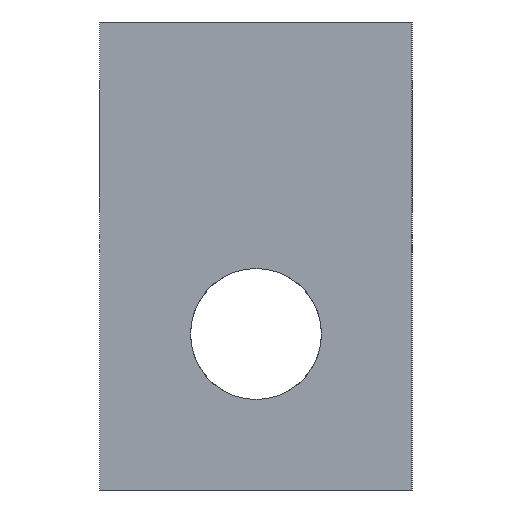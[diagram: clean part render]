
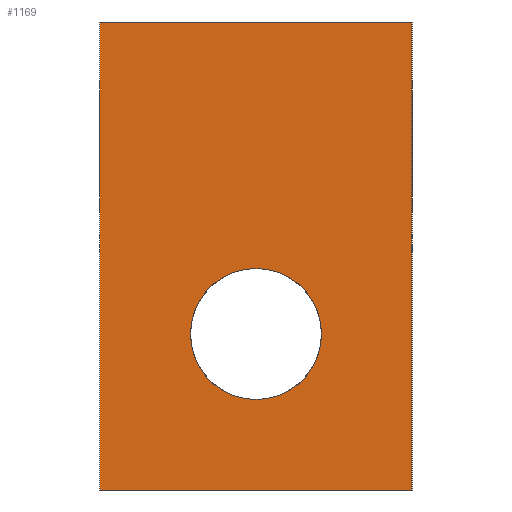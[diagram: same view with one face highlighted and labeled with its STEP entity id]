
A CAD part, left-side view. The second image highlights one B-rep face of the part: STEP entity #1169.
In plain terms, the highlighted planar face has unit normal (-1, 0, 0).
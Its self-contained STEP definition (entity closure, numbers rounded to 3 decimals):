
#2 = CIRCLE ( 'NONE', #2240, 2.1 ) ;
#5 = VERTEX_POINT ( 'NONE', #2287 ) ;
#115 = EDGE_CURVE ( 'NONE', #1450, #2201, #2, .T. ) ;
#130 = CARTESIAN_POINT ( 'NONE',  ( -41., 5., -7.5 ) ) ;
#131 = CIRCLE ( 'NONE', #2188, 2.1 ) ;
#177 = CARTESIAN_POINT ( 'NONE',  ( -41., 5., -7.5 ) ) ;
#337 = FACE_OUTER_BOUND ( 'NONE', #1213, .T. ) ;
#480 = CARTESIAN_POINT ( 'NONE',  ( -41., 0., -0.4 ) ) ;
#485 = EDGE_CURVE ( 'NONE', #2201, #1450, #131, .T. ) ;
#523 = CARTESIAN_POINT ( 'NONE',  ( -41., -5., -7.5 ) ) ;
#542 = CARTESIAN_POINT ( 'NONE',  ( -41., 5., 7.5 ) ) ;
#572 = FACE_BOUND ( 'NONE', #1783, .T. ) ;
#573 = LINE ( 'NONE', #130, #1970 ) ;
#642 = LINE ( 'NONE', #177, #1620 ) ;
#683 = DIRECTION ( 'NONE',  ( 0., 0., 1. ) ) ;
#888 = CARTESIAN_POINT ( 'NONE',  ( -41., 5., 7.5 ) ) ;
#959 = DIRECTION ( 'NONE',  ( 0., 0., 1. ) ) ;
#990 = CARTESIAN_POINT ( 'NONE',  ( -41., 5., -7.5 ) ) ;
#1016 = DIRECTION ( 'NONE',  ( -1., 0., 0. ) ) ;
#1044 = EDGE_CURVE ( 'NONE', #1694, #1757, #1205, .T. ) ;
#1047 = CARTESIAN_POINT ( 'NONE',  ( -41., 0., -4.6 ) ) ;
#1079 = DIRECTION ( 'NONE',  ( 0., 0., -1. ) ) ;
#1138 = PLANE ( 'NONE',  #1584 ) ;
#1160 = ORIENTED_EDGE ( 'NONE', *, *, #1044, .F. ) ;
#1169 = ADVANCED_FACE ( 'NONE', ( #572, #337 ), #1138, .F. ) ;
#1199 = DIRECTION ( 'NONE',  ( 0., -1., 0. ) ) ;
#1205 = LINE ( 'NONE', #542, #1485 ) ;
#1213 = EDGE_LOOP ( 'NONE', ( #1570, #1160, #1394, #1468 ) ) ;
#1232 = DIRECTION ( 'NONE',  ( 0., 0., 1. ) ) ;
#1347 = VECTOR ( 'NONE', #683, 1000. ) ;
#1394 = ORIENTED_EDGE ( 'NONE', *, *, #2250, .F. ) ;
#1409 = LINE ( 'NONE', #523, #1347 ) ;
#1450 = VERTEX_POINT ( 'NONE', #480 ) ;
#1468 = ORIENTED_EDGE ( 'NONE', *, *, #1506, .T. ) ;
#1485 = VECTOR ( 'NONE', #1625, 1000. ) ;
#1506 = EDGE_CURVE ( 'NONE', #2057, #5, #573, .T. ) ;
#1570 = ORIENTED_EDGE ( 'NONE', *, *, #2186, .T. ) ;
#1584 = AXIS2_PLACEMENT_3D ( 'NONE', #1921, #2175, #1079 ) ;
#1620 = VECTOR ( 'NONE', #1232, 1000. ) ;
#1625 = DIRECTION ( 'NONE',  ( 0., -1., 0. ) ) ;
#1683 = ORIENTED_EDGE ( 'NONE', *, *, #115, .F. ) ;
#1694 = VERTEX_POINT ( 'NONE', #888 ) ;
#1757 = VERTEX_POINT ( 'NONE', #1825 ) ;
#1783 = EDGE_LOOP ( 'NONE', ( #1683, #1929 ) ) ;
#1806 = CARTESIAN_POINT ( 'NONE',  ( -41., 0., -2.5 ) ) ;
#1825 = CARTESIAN_POINT ( 'NONE',  ( -41., -5., 7.5 ) ) ;
#1900 = DIRECTION ( 'NONE',  ( 0., 0., 1. ) ) ;
#1921 = CARTESIAN_POINT ( 'NONE',  ( -41., 5., -7.5 ) ) ;
#1929 = ORIENTED_EDGE ( 'NONE', *, *, #485, .F. ) ;
#1970 = VECTOR ( 'NONE', #1199, 1000. ) ;
#2057 = VERTEX_POINT ( 'NONE', #990 ) ;
#2145 = DIRECTION ( 'NONE',  ( -1., 0., 0. ) ) ;
#2175 = DIRECTION ( 'NONE',  ( 1., 0., 0. ) ) ;
#2186 = EDGE_CURVE ( 'NONE', #5, #1757, #1409, .T. ) ;
#2188 = AXIS2_PLACEMENT_3D ( 'NONE', #2267, #1016, #1900 ) ;
#2201 = VERTEX_POINT ( 'NONE', #1047 ) ;
#2240 = AXIS2_PLACEMENT_3D ( 'NONE', #1806, #2145, #959 ) ;
#2250 = EDGE_CURVE ( 'NONE', #2057, #1694, #642, .T. ) ;
#2267 = CARTESIAN_POINT ( 'NONE',  ( -41., 0., -2.5 ) ) ;
#2287 = CARTESIAN_POINT ( 'NONE',  ( -41., -5., -7.5 ) ) ;
